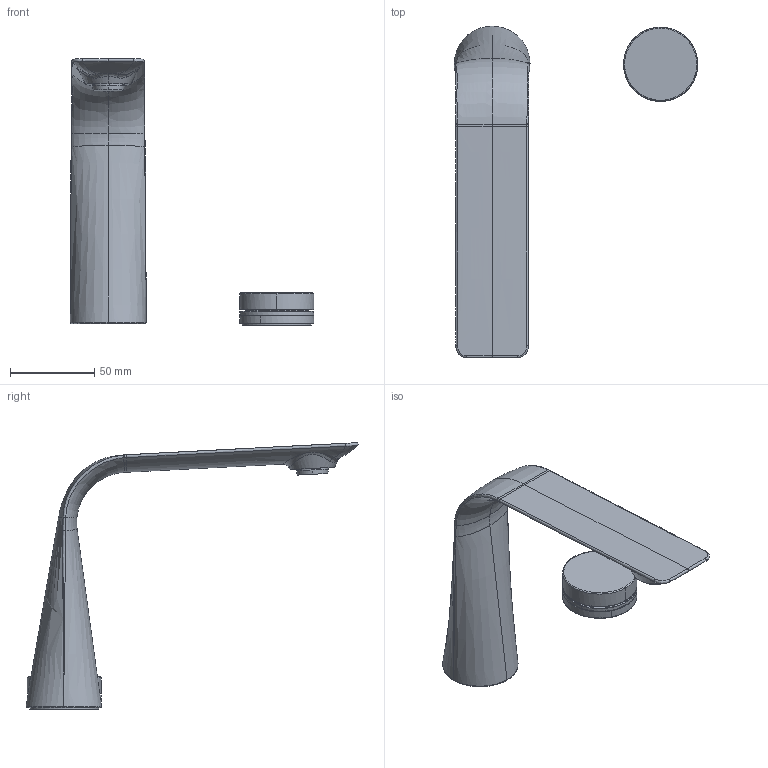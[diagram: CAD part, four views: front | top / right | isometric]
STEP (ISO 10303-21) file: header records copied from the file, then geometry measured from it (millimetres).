
FILE_DESCRIPTION(/* description */ (''),/* implementation_level */ '2;1');
FILE_NAME(/* name */ 'D11100007010',/* time_stamp */ '2019-09-02T13:03:47+02:00',/* author */ (''),/* organization */ (''),/* preprocessor_version */ 'ST-DEVELOPER v15',/* originating_system */ '',/* authorisation */ '');
FILE_SCHEMA (('AUTOMOTIVE_DESIGN'));
Length unit declared in the file: millimetre
Products named in the file (1): Document
Bounding box: 144.5 x 197.03 x 158.23 mm (x, y, z)
Volume: 180279.6 mm3; surface area: 46795.9 mm2
Topology: 4 solids, 6 shells, 441 faces, 1009 edges, 590 vertices
Faces by surface type: bspline 419, plane 22
Entity records: 33282 total; most frequent: CARTESIAN_POINT 27925, ORIENTED_EDGE 2006, EDGE_CURVE 1007, VERTEX_POINT 590, EDGE_LOOP 458, ADVANCED_FACE 441, FACE_OUTER_BOUND 441, B_SPLINE_CURVE_WITH_KNOTS 266
